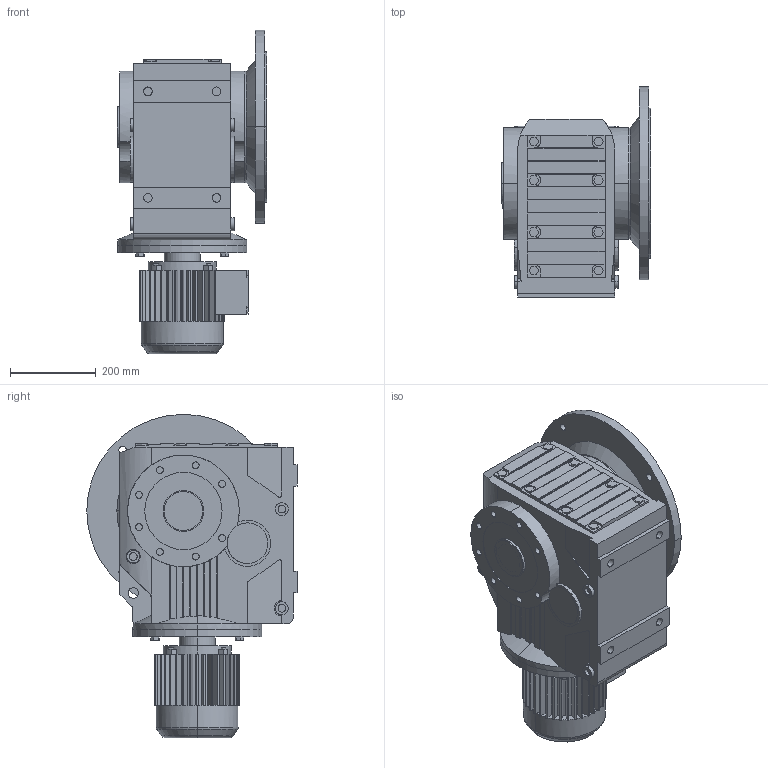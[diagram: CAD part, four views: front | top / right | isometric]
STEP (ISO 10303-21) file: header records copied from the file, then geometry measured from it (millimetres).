
FILE_DESCRIPTION(('Open CASCADE Model'),'2;1');
FILE_NAME('Open CASCADE Shape Model','2021-07-20T14:34:46',('Author'),( 'Open CASCADE'),'Open CASCADE STEP processor 6.3','Open CASCADE 6.3' ,'Unknown');
FILE_SCHEMA(('AUTOMOTIVE_DESIGN_CC2 { 1 2 10303 214 -1 1 5 4 }'));
Length unit declared in the file: millimetre
Products named in the file (5): 1_KAF97DT90-A; KA37‵107_97.step; 萇儂_300-DT90-251-336-197-154.step; す瑩諾陑粣K_97.step; 楊擘K_97.step
Assembly tree (4 placements, depth 2):
  1_KAF97DT90-A
    KA37‵107_97.step
    萇儂_300-DT90-251-336-197-154.step
    す瑩諾陑粣K_97.step
    楊擘K_97.step
Bounding box: 348.5 x 490 x 753 mm (x, y, z)
Volume: 49763541.3 mm3; surface area: 1923603.3 mm2
Topology: 4 solids, 4 shells, 872 faces, 2266 edges, 1475 vertices
Faces by surface type: plane 560, cylinder 298, cone 10, torus 4
Entity records: 64753 total; most frequent: CARTESIAN_POINT 22244, DIRECTION 7117, ORIENTED_EDGE 4532, PCURVE 4532, DEFINITIONAL_REPRESENTATION 4532, LINE 3643, VECTOR 3643, EDGE_CURVE 2266
